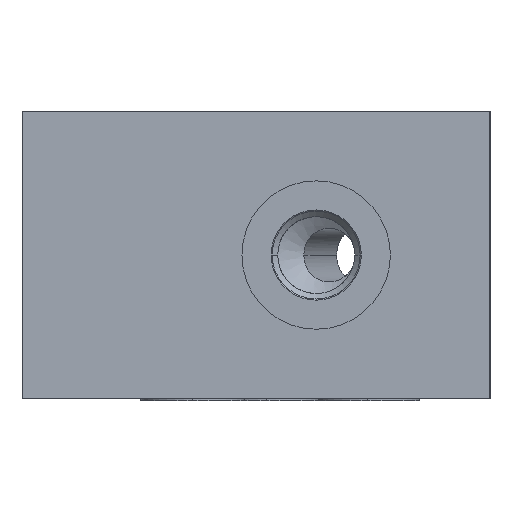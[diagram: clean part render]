
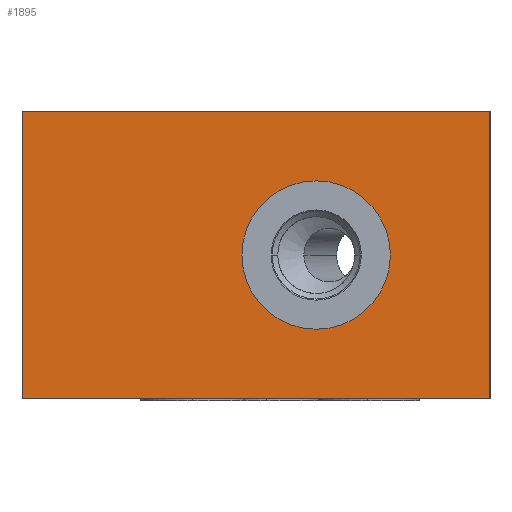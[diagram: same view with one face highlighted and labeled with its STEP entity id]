
A CAD part, left-side view. The second image highlights one B-rep face of the part: STEP entity #1895.
In plain terms, the highlighted planar face has unit normal (-1, 0, 0).
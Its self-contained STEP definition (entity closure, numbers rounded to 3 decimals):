
#73=DIRECTION('',(0.,1.,0.));
#74=VECTOR('',#73,70.);
#75=CARTESIAN_POINT('',(0.,0.,0.));
#76=LINE('',#75,#74);
#224=DIRECTION('',(0.,0.,-1.));
#225=VECTOR('',#224,43.);
#226=CARTESIAN_POINT('',(0.,0.,43.));
#227=LINE('',#226,#225);
#231=DIRECTION('',(0.,0.,-1.));
#232=VECTOR('',#231,43.);
#233=CARTESIAN_POINT('',(0.,70.,43.));
#234=LINE('',#233,#232);
#238=CARTESIAN_POINT('',(0.,26.,21.5));
#239=DIRECTION('',(1.,0.,0.));
#240=DIRECTION('',(0.,1.,0.));
#241=AXIS2_PLACEMENT_3D('',#238,#239,#240);
#246=CARTESIAN_POINT('',(0.,26.,21.5));
#247=DIRECTION('',(1.,0.,0.));
#248=DIRECTION('',(0.,-1.,0.));
#249=AXIS2_PLACEMENT_3D('',#246,#247,#248);
#291=DIRECTION('',(0.,1.,0.));
#292=VECTOR('',#291,70.);
#293=CARTESIAN_POINT('',(0.,0.,43.));
#294=LINE('',#293,#292);
#1591=CARTESIAN_POINT('',(0.,0.,0.));
#1593=VERTEX_POINT('',#1591);
#1596=CARTESIAN_POINT('',(0.,70.,0.));
#1597=VERTEX_POINT('',#1596);
#1599=CARTESIAN_POINT('',(0.,0.,43.));
#1601=VERTEX_POINT('',#1599);
#1604=CARTESIAN_POINT('',(0.,70.,43.));
#1605=VERTEX_POINT('',#1604);
#1740=CARTESIAN_POINT('',(0.,37.1,21.5));
#1741=VERTEX_POINT('',#1740);
#1742=CARTESIAN_POINT('',(0.,14.9,21.5));
#1743=VERTEX_POINT('',#1742);
#1876=CARTESIAN_POINT('',(0.,70.,0.));
#1877=DIRECTION('',(-1.,0.,0.));
#1878=DIRECTION('',(0.,-1.,0.));
#1879=AXIS2_PLACEMENT_3D('',#1876,#1877,#1878);
#1880=PLANE('',#1879);
#1881=ORIENTED_EDGE('',*,*,#1790,.T.);
#1883=ORIENTED_EDGE('',*,*,#1882,.F.);
#1885=ORIENTED_EDGE('',*,*,#1884,.F.);
#1886=ORIENTED_EDGE('',*,*,#1855,.T.);
#1887=EDGE_LOOP('',(#1881,#1883,#1885,#1886));
#1888=FACE_OUTER_BOUND('',#1887,.F.);
#1890=ORIENTED_EDGE('',*,*,#1889,.F.);
#1892=ORIENTED_EDGE('',*,*,#1891,.F.);
#1893=EDGE_LOOP('',(#1890,#1892));
#1894=FACE_BOUND('',#1893,.F.);
#242=CIRCLE('',#241,11.1);
#250=CIRCLE('',#249,11.1);
#1790=EDGE_CURVE('',#1593,#1597,#76,.T.);
#1855=EDGE_CURVE('',#1601,#1593,#227,.T.);
#1882=EDGE_CURVE('',#1605,#1597,#234,.T.);
#1884=EDGE_CURVE('',#1601,#1605,#294,.T.);
#1889=EDGE_CURVE('',#1741,#1743,#242,.T.);
#1891=EDGE_CURVE('',#1743,#1741,#250,.T.);
#1895=ADVANCED_FACE('',(#1888,#1894),#1880,.T.);
